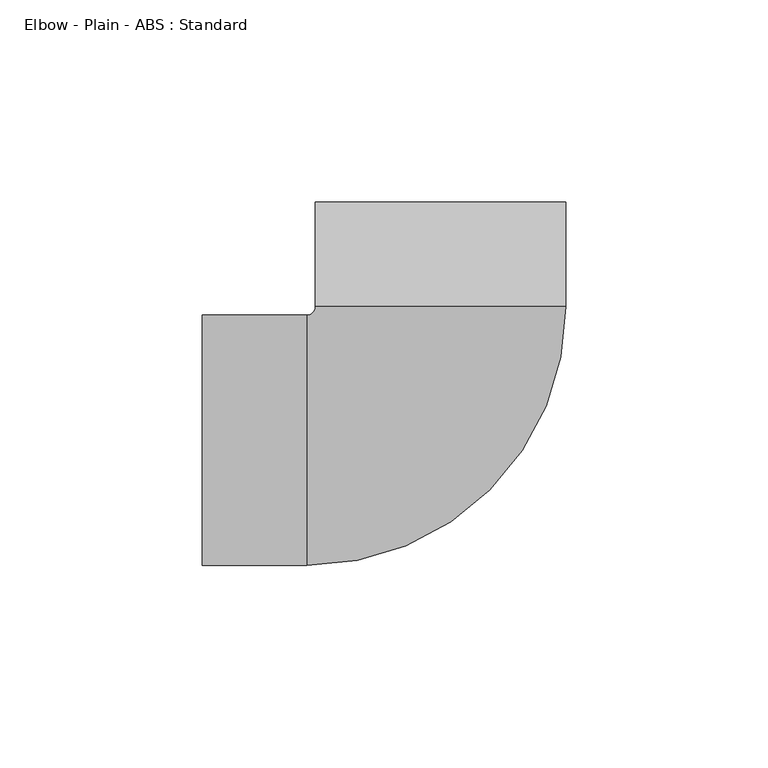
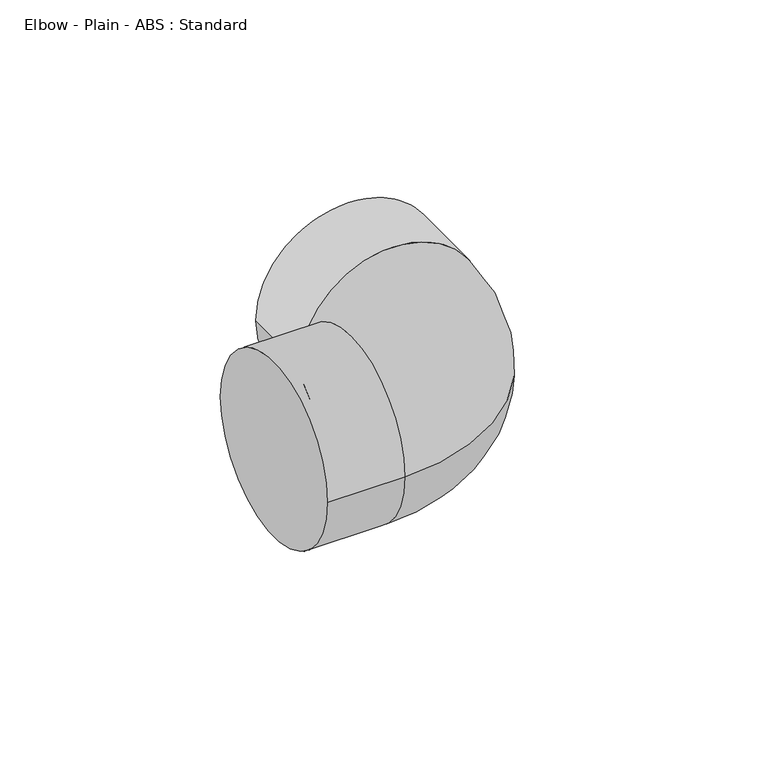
"""IFC4 building model written with IfcOpenShell, lengths in millimetres: pipe fitting geometry, Elbow - Plain - ABS : Standard."""

from ifc_helpers import new_model, si_unit, point, frame, origin, place, context, project, spatial, circle_curve, ellipse_curve, trimmed, source, transform, mapped, element, save
from ifc_brep_helpers import plane_surface, cylinder_surface, revolved_surface, advanced_brep


def elbow_plain_abs_standard_c950b686(model_context):
    return source(origin(), model_context, "Body", "AdvancedBrep", [
        advanced_brep(
        [(-59.0, -31.0, 0.0), (-59.0, 31.0, 0.0), (-33.08, -31.0, 0.0), (-33.08, 31.0, 0.0), (-30.9948317, 33.0848426, 0.0), (31.0051676, 33.0751566, 0.0), (31.0092169, 58.9951563, 0.0), (-30.9907823, 59.0048423, 0.0)],
        [
            (0, 1, circle_curve(frame((-59.0, 0.0, 0.0), z_axis=(-1.0, 0.0, 0.0), x_axis=(0.0, 1.0, 0.0)), 31.0)),
            (1, 0, circle_curve(frame((-59.0, 0.0, 0.0), z_axis=(-1.0, 0.0, 0.0), x_axis=(0.0, 1.0, 0.0)), 31.0)),
            (0, 2),
            (2, 3, circle_curve(frame((-33.08, 0.0, 0.0), z_axis=(-1.0, 0.0, 0.0), x_axis=(0.0, 1.0, 0.0)), 31.0)),
            (3, 1),
            (3, 2, circle_curve(frame((-33.08, 0.0, 0.0), z_axis=(-1.0, 0.0, 0.0), x_axis=(0.0, 1.0, 0.0)), 31.0)),
            (4, 3, circle_curve(frame((-33.08, 33.0851683, 0.0), z_axis=(0.0, 0.0, -1.0), x_axis=(0.0, -1.0, 0.0)), 2.0851683)),
            (2, 5, circle_curve(frame((-33.08, 33.0851683, 0.0), z_axis=(0.0, 0.0, 1.0), x_axis=(0.0, -1.0, 0.0)), 64.0851683)),
            (5, 4, circle_curve(frame((0.0051679, 33.0799996, 0.0), z_axis=(-0.0001562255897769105, -0.9999999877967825, 0.0), x_axis=(-0.9999999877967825, 0.0001562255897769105, 0.0)), 31.0)),
            (4, 5, circle_curve(frame((0.0051679, 33.0799996, 0.0), z_axis=(-0.0001562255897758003, -0.9999999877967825, 0.0), x_axis=(-0.9999999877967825, 0.0001562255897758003, 0.0)), 31.0)),
            (6, 7, circle_curve(frame((0.0092173, 58.9999993, 0.0), z_axis=(0.0001562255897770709, 0.9999999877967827, 0.0), x_axis=(-0.9999999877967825, 0.00015622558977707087, 0.0)), 31.0)),
            (7, 6, circle_curve(frame((0.0092173, 58.9999993, 0.0), z_axis=(0.0001562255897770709, 0.9999999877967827, 0.0), x_axis=(-0.9999999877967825, 0.00015622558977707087, 0.0)), 31.0)),
            (5, 6),
            (7, 4),
        ],
        [
            plane_surface(frame((-59.0, 0.0, 0.0), z_axis=(-1.0, 0.0, 0.0), x_axis=(0.0, 0.0, 1.0))),
            cylinder_surface(frame((-59.0, 0.0, 0.0), z_axis=(-1.0, 0.0, 0.0), x_axis=(0.0, 1.0, 0.0)), 31.0),
            revolved_surface(trimmed(ellipse_curve(frame((-33.08, 0.0, 0.0), z_axis=(-1.0, 0.0, 0.0), x_axis=(0.0, 1.0, 0.0)), 31.0, 31.0), [point((-33.08, -31.0, 0.0))], [point((-33.08, 31.0, 0.0))], True, "CARTESIAN"), (-33.08, 33.0851683, 0.0), (0.0, 0.0, 1.0)),
            revolved_surface(trimmed(ellipse_curve(frame((-33.08, 0.0, 0.0), z_axis=(-1.0, 0.0, 0.0), x_axis=(0.0, 1.0, 0.0)), 31.0, 31.0), [point((-33.08, 31.0, 0.0))], [point((-33.08, -31.0, 0.0))], True, "CARTESIAN"), (-33.08, 33.0851683, 0.0), (0.0, 0.0, 1.0)),
            plane_surface(frame((0.0092173, 58.9999993, 0.0), z_axis=(0.00015622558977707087, 0.9999999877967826, 0.0), x_axis=(0.0, 0.0, 1.0))),
            cylinder_surface(frame((0.0051679, 33.0799996, 0.0), z_axis=(-0.00015622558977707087, -0.9999999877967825, 0.0), x_axis=(-0.9999999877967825, 0.00015622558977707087, 0.0)), 31.0),
        ],
        [
            (0, [[1, 2]]),
            (1, [[-1, 3, 4, 5]]),
            (1, [[-2, -5, 6, -3]]),
            (2, [[7, -4, 8, 9]]),
            (3, [[-8, -6, -7, 10]]),
            (4, [[11, 12]]),
            (5, [[-9, 13, -12, 14]]),
            (5, [[-10, -14, -11, -13]]),
        ],
    ),
    ])


if __name__ == "__main__":
    model = new_model("IFC4")
    model_context = context("Model", 3, world=origin())
    ifc_project = project(units=[si_unit("LENGTHUNIT", "METRE", prefix="MILLI")], contexts=[model_context])
    site = spatial("IfcSite", under=ifc_project)
    building = spatial("IfcBuilding", under=site)
    placement = place(None, origin())
    elbow_plain_abs_standard_shape = elbow_plain_abs_standard_c950b686(model_context)
    element("IfcPipeFitting", 1, ObjectType="Elbow - Plain - ABS : Standard", at=placement, inside=building, context=model_context, shape_type="MappedRepresentation", body=[
        mapped(elbow_plain_abs_standard_shape, transform((0.0, 0.0, 0.0), x_axis=(1.0, 0.0, 0.0), y_axis=(0.0, 1.0, 0.0), z_axis=(0.0, 0.0, 1.0))),
    ])
    save(model, "model.ifc")
